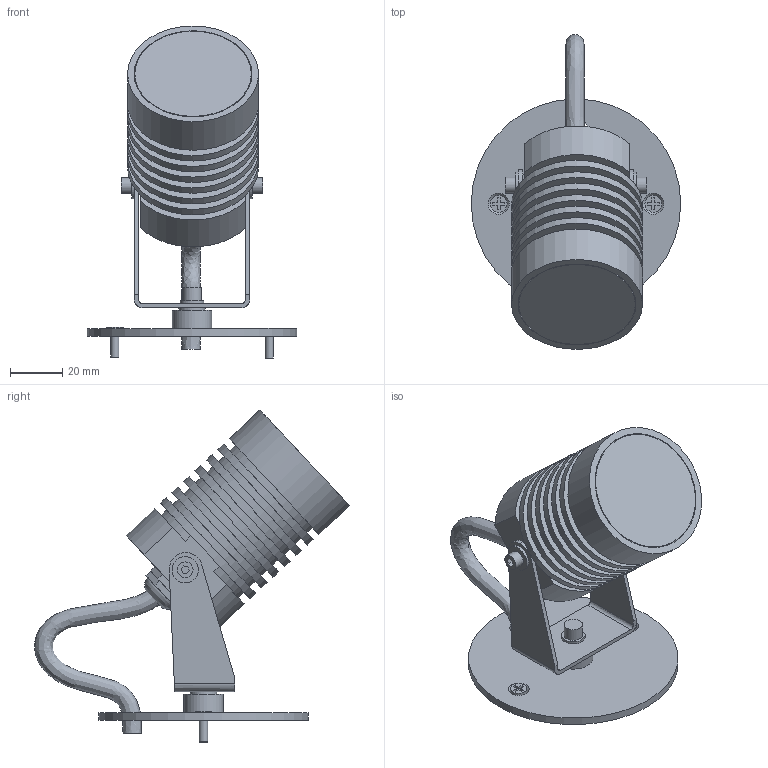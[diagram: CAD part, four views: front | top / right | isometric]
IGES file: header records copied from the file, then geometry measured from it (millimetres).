
Start section: SolidWorks IGES file using analytic representation for surfaces
Global section: file name: X:\PRODUKT\Modele 3D_WWW\_KOLEKCJE WWW\SPIKE\SPIKE-LED-S-9101\SPIKE-LED-S-9101.IGS; native system: SolidWorks 2021; preprocessor: SolidWorks 2021; author: gabriela.tworek; date: 220628.113037; units: millimetre
Bounding box: 80 x 120.21 x 126.72 mm (x, y, z)
Surface area: 59555.4 mm2 (no closed solid volume)
Topology: 0 solids, 0 shells, 225 faces, 851 edges, 790 vertices
Faces by surface type: bspline 153, revolution 72
